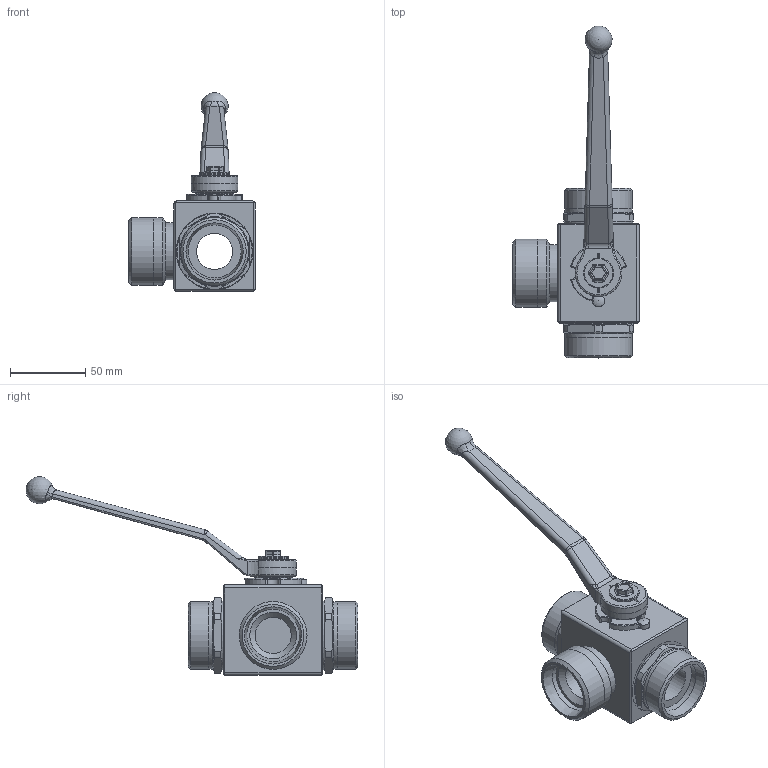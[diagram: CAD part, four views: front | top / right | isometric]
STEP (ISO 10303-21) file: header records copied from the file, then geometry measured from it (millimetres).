
FILE_DESCRIPTION( ( 'Unknown' ), '1' );
FILE_NAME( 'H:/PISTER/3D-MODELLE/BK3 stp/BK3 DN25 35L.stp', 'Unknown', ( 'Unknown' ), ( 'Unknown' ), 'PSStep 14.0', 'Unknown', ' ' );
FILE_SCHEMA( ( 'AUTOMOTIVE_DESIGN { 1 0 10303 214 1 1 1 1 }' ) );
Length unit declared in the file: millimetre
Products named in the file (11): Assem1; 10-025-001; 06-025-186-oa7; 09-14-001; 58-28740-13-oa8; Griff_SW14; 58-0933-147; 04-025-150-oa9; 04-025-150-oa10; 01-025-024-oa11; 04-025-064-oa12
Assembly tree (10 placements, depth 2):
  Assem1
    10-025-001
    06-025-186-oa7
    09-14-001
    58-28740-13-oa8
    Griff_SW14
    58-0933-147
    04-025-150-oa9
    04-025-150-oa10
    01-025-024-oa11
    04-025-064-oa12
Bounding box: 84 x 220.18 x 131.9 mm (x, y, z)
Volume: 122163.9 mm3; surface area: 72876.5 mm2
Topology: 10 solids, 10 shells, 417 faces, 1022 edges, 619 vertices
Faces by surface type: cylinder 132, plane 131, torus 56, cone 44, bspline 40, sphere 14
Full cylindrical faces by diameter (mm): 5 x1, 6 x1, 6.5 x1, 7.98 x1, 20 x3, 20.2 x1, 24 x3, 25 x1, 35 x1, 35.3 x2, 37.8 x1, 38 x1, 43.3 x2, 45 x6, 46 x2, 50 x2, 51 x2
Entity records: 17146 total; most frequent: CARTESIAN_POINT 4396, DIRECTION 2003, ORIENTED_EDGE 1828, EDGE_CURVE 914, AXIS2_PLACEMENT_3D 837, VERTEX_POINT 591, EDGE_LOOP 510, FACE_OUTER_BOUND 461
